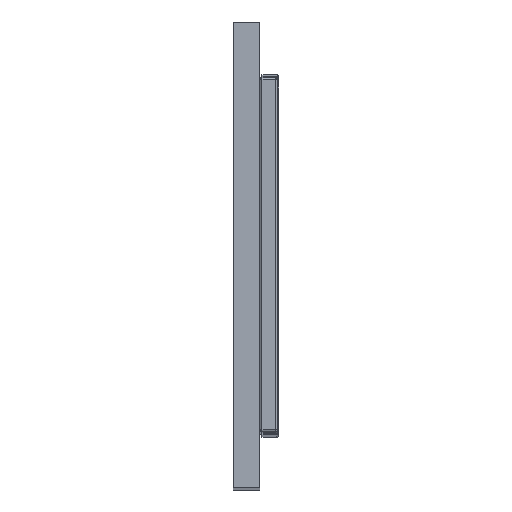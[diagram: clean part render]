
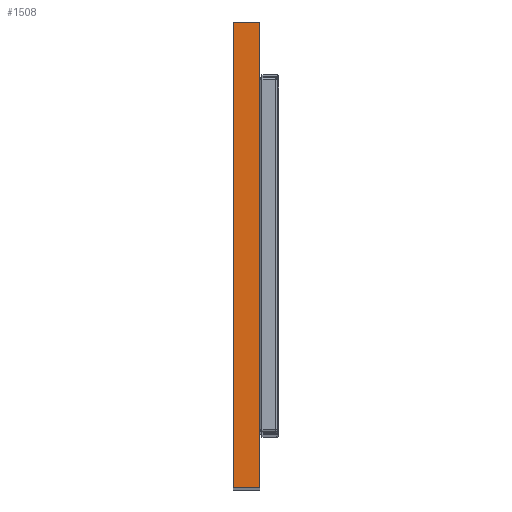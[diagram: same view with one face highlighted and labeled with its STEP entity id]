
A CAD part, top view. The second image highlights one B-rep face of the part: STEP entity #1508.
In plain terms, the highlighted planar face has unit normal (0, 0, 1).
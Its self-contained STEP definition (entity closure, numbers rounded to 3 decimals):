
#46 = VECTOR ( 'NONE', #2826, 1000. ) ;
#169 = CARTESIAN_POINT ( 'NONE',  ( 0., 0., 320. ) ) ;
#288 = PLANE ( 'NONE',  #4351 ) ;
#379 = VERTEX_POINT ( 'NONE', #169 ) ;
#496 = CARTESIAN_POINT ( 'NONE',  ( 0., 105., 320. ) ) ;
#513 = VERTEX_POINT ( 'NONE', #1289 ) ;
#646 = CARTESIAN_POINT ( 'NONE',  ( 0., 0., 320. ) ) ;
#681 = DIRECTION ( 'NONE',  ( 0., 0., -1. ) ) ;
#954 = DIRECTION ( 'NONE',  ( -1., 0., 0. ) ) ;
#961 = DIRECTION ( 'NONE',  ( 1., 0., 0. ) ) ;
#978 = DIRECTION ( 'NONE',  ( 0., 1., 0. ) ) ;
#1035 = CARTESIAN_POINT ( 'NONE',  ( 0., 0., 320. ) ) ;
#1246 = ORIENTED_EDGE ( 'NONE', *, *, #3530, .T. ) ;
#1289 = CARTESIAN_POINT ( 'NONE',  ( 6., 105., 320. ) ) ;
#1344 = CARTESIAN_POINT ( 'NONE',  ( 0., 0., 320. ) ) ;
#1363 = ORIENTED_EDGE ( 'NONE', *, *, #3222, .T. ) ;
#1508 = ADVANCED_FACE ( 'NONE', ( #4890 ), #288, .F. ) ;
#1813 = DIRECTION ( 'NONE',  ( 0., -1., 0. ) ) ;
#1904 = VECTOR ( 'NONE', #1813, 1000. ) ;
#1917 = CARTESIAN_POINT ( 'NONE',  ( 6., 0., 320. ) ) ;
#2075 = VERTEX_POINT ( 'NONE', #2756 ) ;
#2174 = VERTEX_POINT ( 'NONE', #3201 ) ;
#2243 = EDGE_LOOP ( 'NONE', ( #3603, #3498, #1363, #1246 ) ) ;
#2401 = EDGE_CURVE ( 'NONE', #2174, #379, #4879, .T. ) ;
#2756 = CARTESIAN_POINT ( 'NONE',  ( 6., 0., 320. ) ) ;
#2826 = DIRECTION ( 'NONE',  ( -1., 0., 0. ) ) ;
#2967 = EDGE_CURVE ( 'NONE', #379, #2075, #4655, .T. ) ;
#3201 = CARTESIAN_POINT ( 'NONE',  ( 0., 105., 320. ) ) ;
#3222 = EDGE_CURVE ( 'NONE', #2075, #513, #4344, .T. ) ;
#3242 = LINE ( 'NONE', #496, #46 ) ;
#3498 = ORIENTED_EDGE ( 'NONE', *, *, #2967, .T. ) ;
#3530 = EDGE_CURVE ( 'NONE', #513, #2174, #3242, .T. ) ;
#3603 = ORIENTED_EDGE ( 'NONE', *, *, #2401, .T. ) ;
#4237 = VECTOR ( 'NONE', #978, 1000. ) ;
#4344 = LINE ( 'NONE', #1917, #4237 ) ;
#4351 = AXIS2_PLACEMENT_3D ( 'NONE', #646, #681, #954 ) ;
#4534 = VECTOR ( 'NONE', #961, 1000. ) ;
#4655 = LINE ( 'NONE', #1344, #4534 ) ;
#4879 = LINE ( 'NONE', #1035, #1904 ) ;
#4890 = FACE_OUTER_BOUND ( 'NONE', #2243, .T. ) ;
